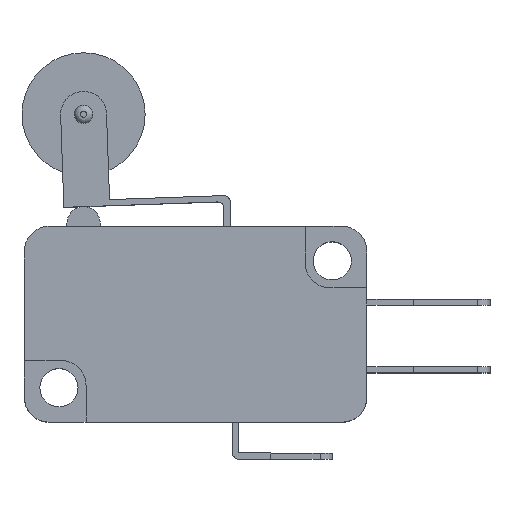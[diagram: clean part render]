
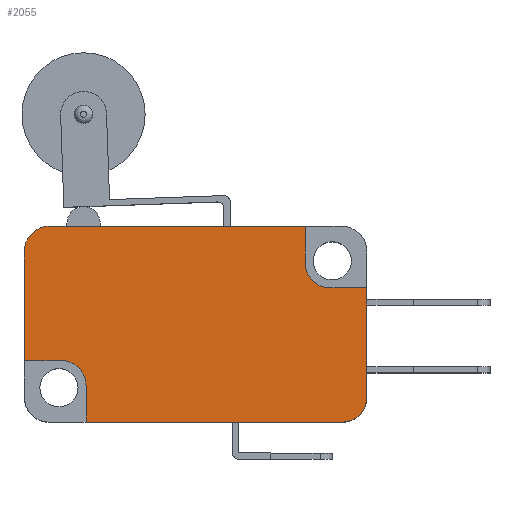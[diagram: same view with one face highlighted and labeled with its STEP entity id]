
A CAD part, top view. The second image highlights one B-rep face of the part: STEP entity #2055.
In plain terms, the highlighted planar face has unit normal (0, 0, 1).
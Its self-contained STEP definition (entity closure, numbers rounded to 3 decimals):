
#85=CIRCLE('',#2184,2.);
#89=CIRCLE('',#2191,2.);
#92=CIRCLE('',#2199,2.);
#94=CIRCLE('',#2205,2.);
#295=FACE_OUTER_BOUND('',#425,.T.);
#425=EDGE_LOOP('',(#1769,#1770,#1771,#1772,#1773,#1774,#1775,#1776,#1777,
#1778,#1779,#1780));
#493=LINE('',#2881,#702);
#501=LINE('',#2898,#710);
#618=LINE('',#3205,#827);
#625=LINE('',#3225,#834);
#628=LINE('',#3231,#837);
#635=LINE('',#3248,#844);
#637=LINE('',#3256,#846);
#638=LINE('',#3258,#847);
#702=VECTOR('',#2318,20.8);
#710=VECTOR('',#2328,20.8);
#827=VECTOR('',#2617,3.);
#834=VECTOR('',#2636,3.);
#837=VECTOR('',#2643,8.9);
#844=VECTOR('',#2664,8.9);
#846=VECTOR('',#2678,3.);
#847=VECTOR('',#2681,3.);
#905=VERTEX_POINT('',#2878);
#906=VERTEX_POINT('',#2880);
#912=VERTEX_POINT('',#2894);
#914=VERTEX_POINT('',#2897);
#1013=VERTEX_POINT('',#3189);
#1014=VERTEX_POINT('',#3191);
#1018=VERTEX_POINT('',#3204);
#1021=VERTEX_POINT('',#3211);
#1022=VERTEX_POINT('',#3213);
#1025=VERTEX_POINT('',#3224);
#1026=VERTEX_POINT('',#3230);
#1029=VERTEX_POINT('',#3247);
#1103=EDGE_CURVE('',#906,#905,#493,.T.);
#1111=EDGE_CURVE('',#914,#912,#501,.T.);
#1254=EDGE_CURVE('',#1013,#1014,#85,.F.);
#1261=EDGE_CURVE('',#1018,#1014,#618,.T.);
#1265=EDGE_CURVE('',#1021,#1022,#89,.F.);
#1271=EDGE_CURVE('',#1025,#1022,#625,.T.);
#1274=EDGE_CURVE('',#1026,#1025,#628,.T.);
#1278=EDGE_CURVE('',#1026,#912,#92,.T.);
#1284=EDGE_CURVE('',#1029,#1018,#635,.T.);
#1286=EDGE_CURVE('',#1029,#905,#94,.T.);
#1287=EDGE_CURVE('',#1013,#914,#637,.T.);
#1288=EDGE_CURVE('',#1021,#906,#638,.T.);
#1769=ORIENTED_EDGE('',*,*,#1278,.F.);
#1770=ORIENTED_EDGE('',*,*,#1274,.T.);
#1771=ORIENTED_EDGE('',*,*,#1271,.T.);
#1772=ORIENTED_EDGE('',*,*,#1265,.F.);
#1773=ORIENTED_EDGE('',*,*,#1288,.T.);
#1774=ORIENTED_EDGE('',*,*,#1103,.T.);
#1775=ORIENTED_EDGE('',*,*,#1286,.F.);
#1776=ORIENTED_EDGE('',*,*,#1284,.T.);
#1777=ORIENTED_EDGE('',*,*,#1261,.T.);
#1778=ORIENTED_EDGE('',*,*,#1254,.F.);
#1779=ORIENTED_EDGE('',*,*,#1287,.T.);
#1780=ORIENTED_EDGE('',*,*,#1111,.T.);
#1957=PLANE('',#2211);
#2055=ADVANCED_FACE('',(#295),#1957,.T.);
#2184=AXIS2_PLACEMENT_3D('',#3192,#2603,#2604);
#2191=AXIS2_PLACEMENT_3D('',#3214,#2624,#2625);
#2199=AXIS2_PLACEMENT_3D('',#3237,#2650,#2651);
#2205=AXIS2_PLACEMENT_3D('',#3251,#2668,#2669);
#2211=AXIS2_PLACEMENT_3D('',#3259,#2682,#2683);
#2318=DIRECTION('',(-1.,0.,0.));
#2328=DIRECTION('',(1.,0.,0.));
#2603=DIRECTION('center_axis',(0.,0.,-1.));
#2604=DIRECTION('ref_axis',(0.707,0.707,0.));
#2617=DIRECTION('',(1.,0.,0.));
#2624=DIRECTION('center_axis',(0.,0.,-1.));
#2625=DIRECTION('ref_axis',(-0.707,-0.707,0.));
#2636=DIRECTION('',(-1.,0.,0.));
#2643=DIRECTION('',(0.,1.,0.));
#2650=DIRECTION('center_axis',(0.,0.,-1.));
#2651=DIRECTION('ref_axis',(0.707,-0.707,0.));
#2664=DIRECTION('',(0.,-1.,0.));
#2668=DIRECTION('center_axis',(0.,0.,-1.));
#2669=DIRECTION('ref_axis',(-0.707,0.707,0.));
#2678=DIRECTION('',(0.,-1.,0.));
#2681=DIRECTION('',(0.,1.,0.));
#2682=DIRECTION('center_axis',(0.,0.,1.));
#2683=DIRECTION('ref_axis',(1.,0.,0.));
#2878=CARTESIAN_POINT('',(-11.9,7.95,5.));
#2880=CARTESIAN_POINT('',(8.9,7.95,5.));
#2881=CARTESIAN_POINT('',(-13.9,7.95,5.));
#2894=CARTESIAN_POINT('',(11.9,-7.95,5.));
#2897=CARTESIAN_POINT('',(-8.9,-7.95,5.));
#2898=CARTESIAN_POINT('',(13.9,-7.95,5.));
#3189=CARTESIAN_POINT('',(-8.9,-4.95,5.));
#3191=CARTESIAN_POINT('',(-10.9,-2.95,5.));
#3192=CARTESIAN_POINT('Origin',(-10.9,-4.95,5.));
#3204=CARTESIAN_POINT('',(-13.9,-2.95,5.));
#3205=CARTESIAN_POINT('',(-4.45,-2.95,5.));
#3211=CARTESIAN_POINT('',(8.9,4.95,5.));
#3213=CARTESIAN_POINT('',(10.9,2.95,5.));
#3214=CARTESIAN_POINT('Origin',(10.9,4.95,5.));
#3224=CARTESIAN_POINT('',(13.9,2.95,5.));
#3225=CARTESIAN_POINT('',(4.45,2.95,5.));
#3230=CARTESIAN_POINT('',(13.9,-5.95,5.));
#3231=CARTESIAN_POINT('',(13.9,7.95,5.));
#3237=CARTESIAN_POINT('Origin',(11.9,-5.95,5.));
#3247=CARTESIAN_POINT('',(-13.9,5.95,5.));
#3248=CARTESIAN_POINT('',(-13.9,-7.95,5.));
#3251=CARTESIAN_POINT('Origin',(-11.9,5.95,5.));
#3256=CARTESIAN_POINT('',(-8.9,-3.975,5.));
#3258=CARTESIAN_POINT('',(8.9,3.975,5.));
#3259=CARTESIAN_POINT('Origin',(0.,0.,5.));
